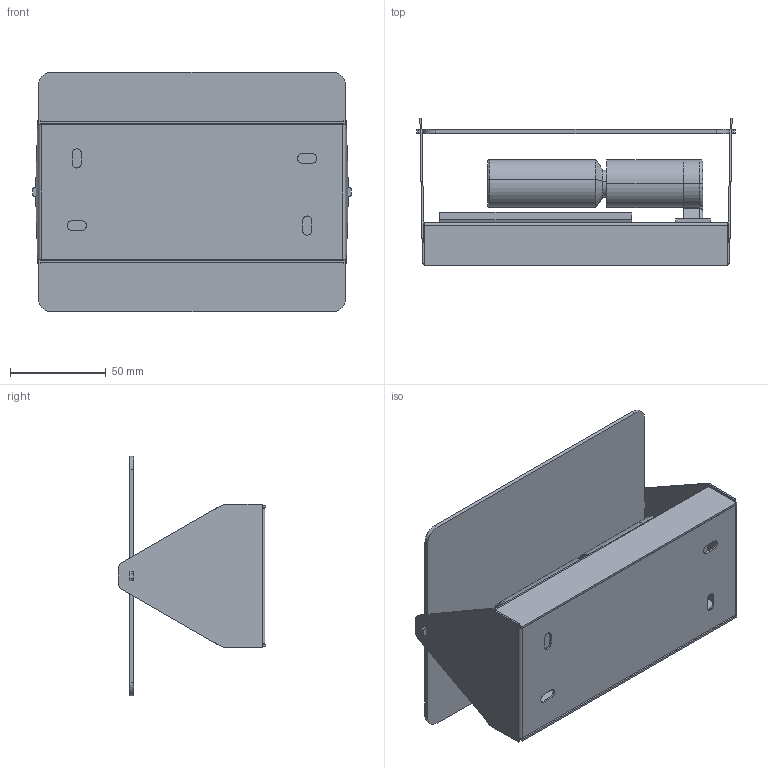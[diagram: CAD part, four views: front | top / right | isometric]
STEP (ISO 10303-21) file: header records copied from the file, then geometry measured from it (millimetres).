
FILE_DESCRIPTION (( 'STEP AP203' ), '1' );
FILE_NAME ('Nemo_applique a volet Pivotant E14.STEP', '2012-11-12T10:12:24', ( '' ), ( '' ), 'SwSTEP 2.0', 'SolidWorks 2012', '' );
FILE_SCHEMA (( 'CONFIG_CONTROL_DESIGN' ));
Length unit declared in the file: millimetre
Products named in the file (1): Nemo_applique a volet Pivotant E14
Bounding box: 166 x 76.83 x 125 mm (x, y, z)
Volume: 141312.6 mm3; surface area: 138673.6 mm2
Topology: 7 solids, 7 shells, 166 faces, 391 edges, 240 vertices
Faces by surface type: plane 102, cylinder 52, torus 8, cone 4
Entity records: 4788 total; most frequent: DIRECTION 851, CARTESIAN_POINT 804, ORIENTED_EDGE 782, EDGE_CURVE 391, AXIS2_PLACEMENT_3D 295, LINE 261, VECTOR 261, VERTEX_POINT 240
